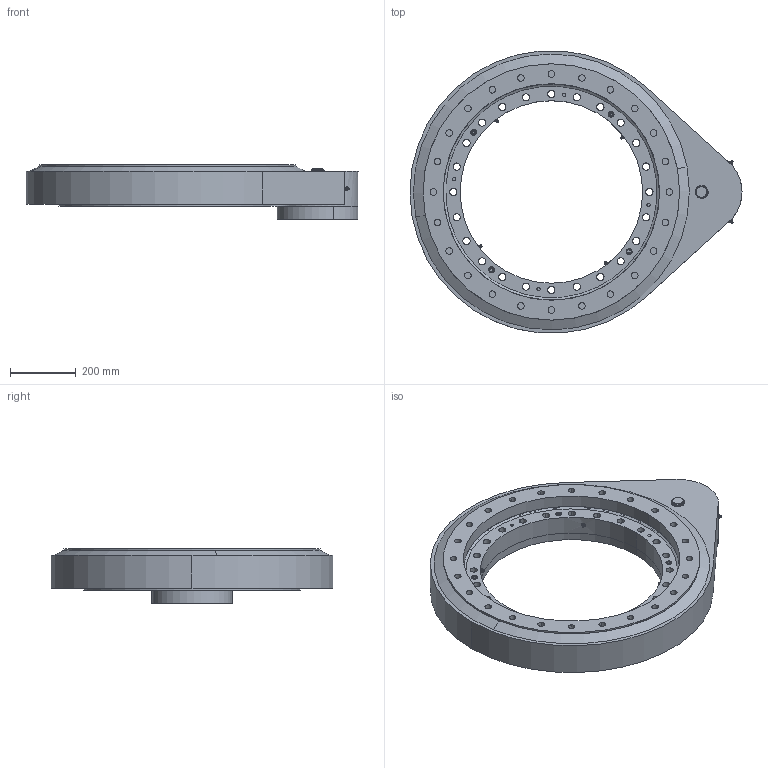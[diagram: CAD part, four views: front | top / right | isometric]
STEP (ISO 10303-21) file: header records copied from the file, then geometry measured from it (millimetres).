
FILE_DESCRIPTION (( 'STEP AP214' ), '1' );
FILE_NAME ('30655.STEP', '2023-03-18T04:37:53', ( '' ), ( '' ), 'SwSTEP 2.0', 'SolidWorks 2021', '' );
FILE_SCHEMA (( 'AUTOMOTIVE_DESIGN' ));
Length unit declared in the file: millimetre
Products named in the file (1): 30655
Bounding box: 1007.5 x 855.41 x 165.5 mm (x, y, z)
Surface area: 1886952.3 mm2 (no closed solid volume)
Topology: 0 solids, 46 shells, 513 faces, 1704 edges, 1209 vertices
Faces by surface type: cylinder 257, plane 172, torus 50, cone 34
Entity records: 25319 total; most frequent: CARTESIAN_POINT 3869, DIRECTION 3697, ORIENTED_EDGE 2717, EDGE_CURVE 1702, AXIS2_PLACEMENT_3D 1493, VERTEX_POINT 1209, CIRCLE 979, EDGE_LOOP 739
